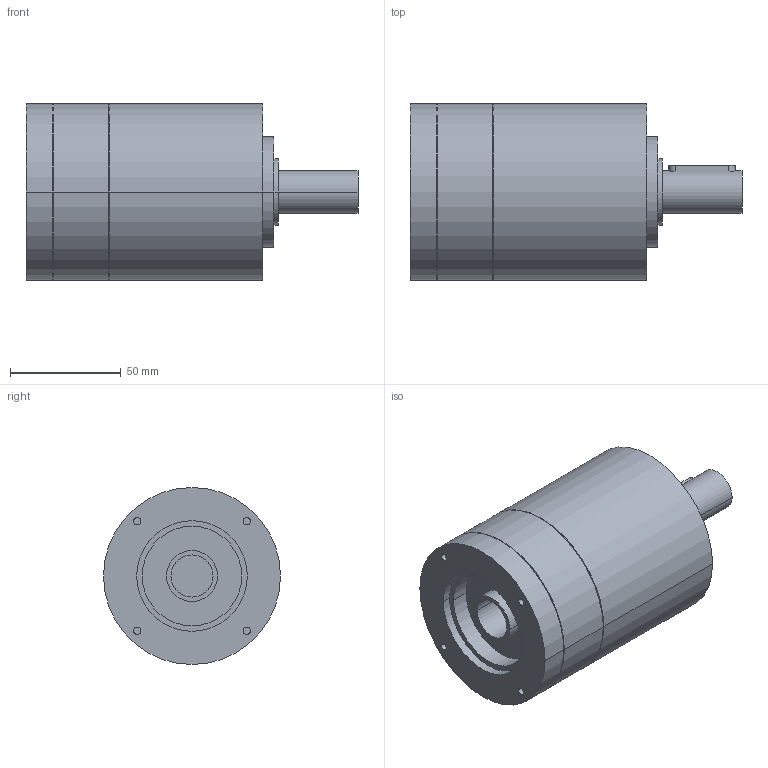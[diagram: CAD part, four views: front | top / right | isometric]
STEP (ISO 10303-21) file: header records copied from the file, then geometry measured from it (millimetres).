
FILE_DESCRIPTION(('CoCreate Modeling STEP Export'),'2;1');
FILE_NAME('GPR100_ig-3-4-5-6_19_B14_19_P22.stp','2014-08-26T10:08:51',(''),(''),'CoCreate Modeling STEP processor for AP214 (Solid Model)','CoCreate Modeling 16.00C 25-Feb-2009 (C) Parametric Technology GmbH','');
FILE_SCHEMA(('AUTOMOTIVE_DESIGN { 1 0 10303 214 1 1 1 1 }'));
Length unit declared in the file: millimetre
Products named in the file (2): GPR100_ig-3-4-5-6_19_B14_19_P22
Assembly tree (1 placements, depth 2):
  GPR100_ig-3-4-5-6_19_B14_19_P22
    GPR100_ig-3-4-5-6_19_B14_19_P22
Bounding box: 150 x 80 x 80 mm (x, y, z)
Volume: 528935.1 mm3; surface area: 46863.3 mm2
Topology: 1 solids, 1 shells, 68 faces, 165 edges, 115 vertices
Faces by surface type: cylinder 40, plane 22, cone 6
Entity records: 1701 total; most frequent: ORIENTED_EDGE 326, CARTESIAN_POINT 316, DIRECTION 222, EDGE_CURVE 163, VERTEX_POINT 115, EDGE_LOOP 86, AXIS2_PLACEMENT_3D 85, FACE_OUTER_BOUND 68
